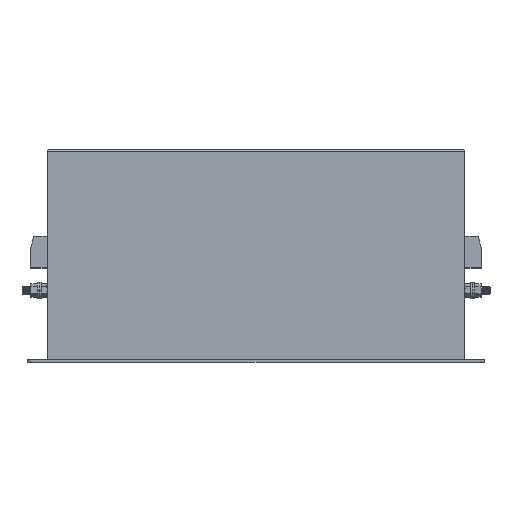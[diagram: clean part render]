
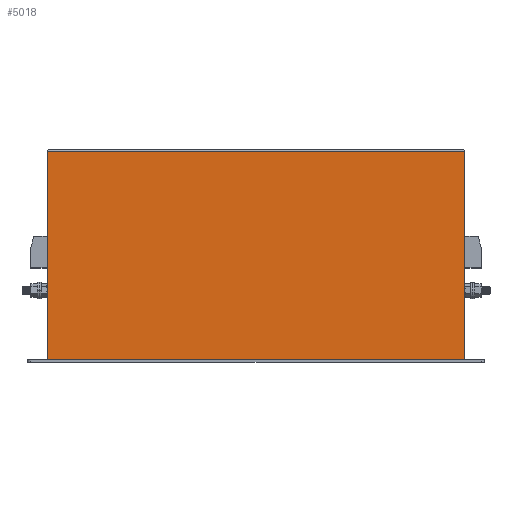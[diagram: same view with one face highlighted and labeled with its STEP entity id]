
A CAD part, top view. The second image highlights one B-rep face of the part: STEP entity #5018.
In plain terms, the highlighted planar face has unit normal (0, 0, 1).
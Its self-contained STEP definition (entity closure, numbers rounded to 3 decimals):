
#559 = LINE ( 'NONE', #1798, #1355 ) ;
#751 = FACE_OUTER_BOUND ( 'NONE', #4566, .T. ) ;
#1078 = CARTESIAN_POINT ( 'NONE',  ( 292., 140.5, 1.5 ) ) ;
#1355 = VECTOR ( 'NONE', #5157, 1000. ) ;
#1448 = LINE ( 'NONE', #4149, #7213 ) ;
#1798 = CARTESIAN_POINT ( 'NONE',  ( 13., 142., 1.5 ) ) ;
#2174 = EDGE_CURVE ( 'NONE', #4958, #7306, #559, .T. ) ;
#2249 = AXIS2_PLACEMENT_3D ( 'NONE', #2257, #3521, #4682 ) ;
#2257 = CARTESIAN_POINT ( 'NONE',  ( 13., 142., 1.5 ) ) ;
#2385 = ORIENTED_EDGE ( 'NONE', *, *, #2174, .T. ) ;
#2428 = DIRECTION ( 'NONE',  ( 0., -1., 0. ) ) ;
#2674 = VERTEX_POINT ( 'NONE', #6108 ) ;
#2741 = LINE ( 'NONE', #4593, #3928 ) ;
#3101 = VECTOR ( 'NONE', #2428, 1000. ) ;
#3521 = DIRECTION ( 'NONE',  ( 0., 0., -1. ) ) ;
#3774 = VERTEX_POINT ( 'NONE', #1078 ) ;
#3928 = VECTOR ( 'NONE', #7173, 1000. ) ;
#4149 = CARTESIAN_POINT ( 'NONE',  ( 13., 140.5, 1.5 ) ) ;
#4386 = EDGE_CURVE ( 'NONE', #3774, #4958, #1448, .T. ) ;
#4566 = EDGE_LOOP ( 'NONE', ( #5105, #4971, #2385, #7466 ) ) ;
#4593 = CARTESIAN_POINT ( 'NONE',  ( 13., 1.5, 1.5 ) ) ;
#4682 = DIRECTION ( 'NONE',  ( -1., 0., 0. ) ) ;
#4708 = PLANE ( 'NONE',  #2249 ) ;
#4799 = LINE ( 'NONE', #8154, #3101 ) ;
#4844 = EDGE_CURVE ( 'NONE', #7306, #2674, #2741, .T. ) ;
#4958 = VERTEX_POINT ( 'NONE', #7335 ) ;
#4971 = ORIENTED_EDGE ( 'NONE', *, *, #4386, .T. ) ;
#5018 = ADVANCED_FACE ( 'NONE', ( #751 ), #4708, .F. ) ;
#5105 = ORIENTED_EDGE ( 'NONE', *, *, #7599, .F. ) ;
#5157 = DIRECTION ( 'NONE',  ( 0., -1., 0. ) ) ;
#5517 = DIRECTION ( 'NONE',  ( -1., 0., 0. ) ) ;
#6108 = CARTESIAN_POINT ( 'NONE',  ( 292., 1.5, 1.5 ) ) ;
#7173 = DIRECTION ( 'NONE',  ( 1., 0., 0. ) ) ;
#7213 = VECTOR ( 'NONE', #5517, 1000. ) ;
#7226 = CARTESIAN_POINT ( 'NONE',  ( 13., 1.5, 1.5 ) ) ;
#7306 = VERTEX_POINT ( 'NONE', #7226 ) ;
#7335 = CARTESIAN_POINT ( 'NONE',  ( 13., 140.5, 1.5 ) ) ;
#7466 = ORIENTED_EDGE ( 'NONE', *, *, #4844, .T. ) ;
#7599 = EDGE_CURVE ( 'NONE', #3774, #2674, #4799, .T. ) ;
#8154 = CARTESIAN_POINT ( 'NONE',  ( 292., 142., 1.5 ) ) ;
